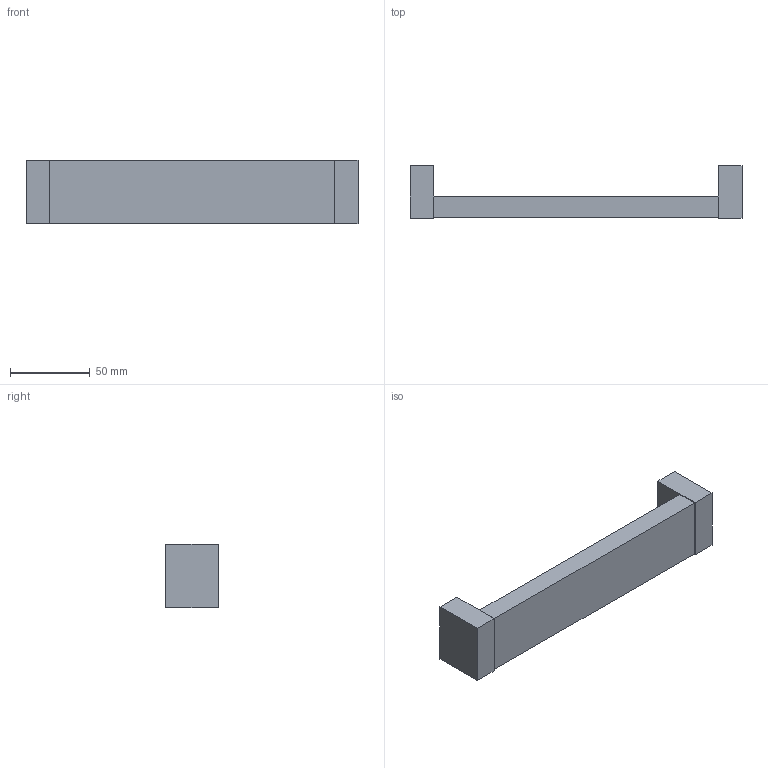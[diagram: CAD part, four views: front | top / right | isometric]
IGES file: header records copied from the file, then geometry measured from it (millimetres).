
Start section: Data from Parasolid IGES Translator 15.0.47, Copyright(c) 2006 Siemens P LM Software. All Rights Reserved.
Global section: file name: 9207452.igs; native system:  By UGS Corp.; preprocessor: XPlus GENERIC/IGES 3.0; author: Noname; organization: Noname; date: 20160301.160436; units: millimetre
Bounding box: 208 x 33 x 40 mm (x, y, z)
Surface area: 27409.3 mm2 (no closed solid volume)
Topology: 0 solids, 0 shells, 20 faces, 84 edges, 82 vertices
Faces by surface type: extrusion 18, revolution 2
